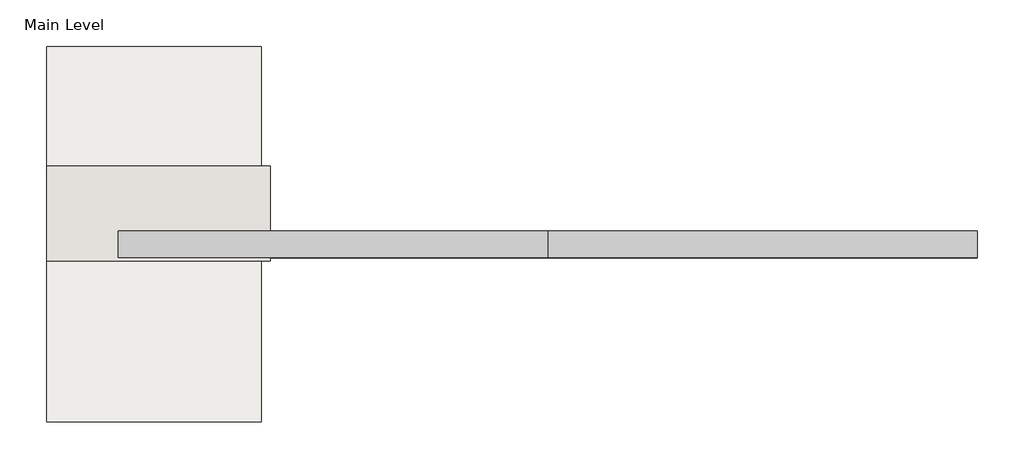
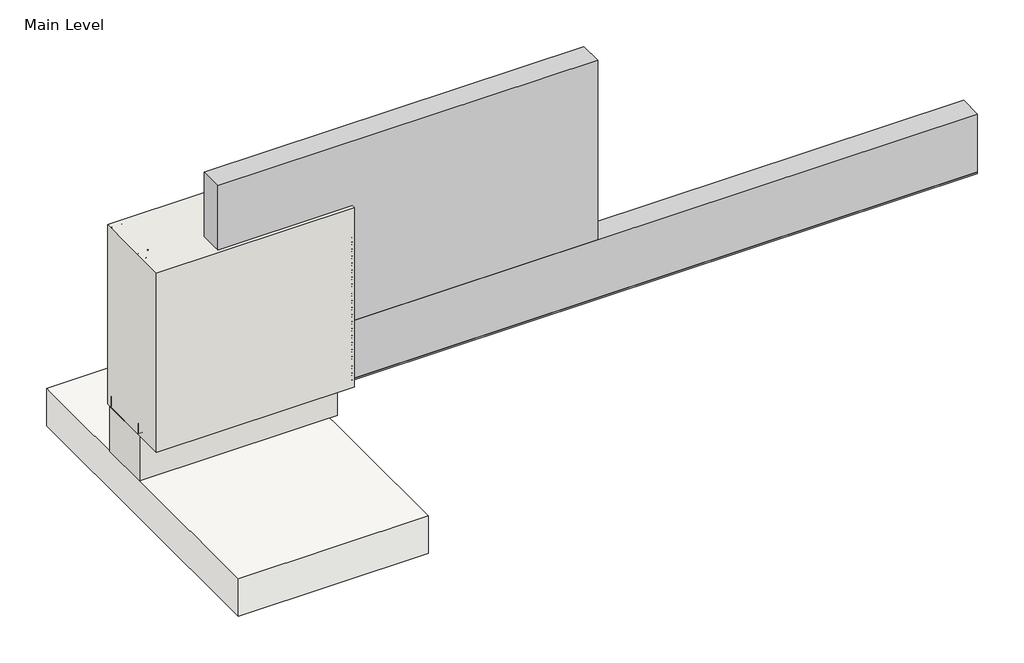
# One storey, incomplete: 14 proxies, 2 walls, 1 slab.
"""IFC4 building model written with IfcOpenShell, lengths in millimetres."""

from ifc_helpers import new_model, si_unit, frame, origin, origin_with_axes, place, context, project, spatial, polyline, outline, extrude, transform, mapped, element, save
from components import generic_models_31547c53, generic_models_0bbfdc8f, generic_models_1e1ad44f, generic_models_7dd17a53, generic_models_441de798, generic_models_9d0e7a2a, generic_models_03ec6e0e, proxy_81afb05a, proxy_e5e434bb, wood_blocking_45ac4bf3

model = new_model("IFC4")

# Units and contexts
model_context = context("Model", 3, world=origin())
ifc_project = project(units=[si_unit("LENGTHUNIT", "METRE", prefix="MILLI")], contexts=[model_context])

# Site, building, storey
site = spatial("IfcSite", under=ifc_project)
building = spatial("IfcBuilding", under=site)
storey = spatial("IfcBuildingStorey", under=building, Name="Main Level", Elevation=0.0)

# Proxies
placement = place(None, origin())
generic_models_shape = generic_models_31547c53(model_context)
element("IfcBuildingElementProxy", 1, Name="Durabond Generic Model Sealant Vent : Durabond Generic Model Sealant Vent", ObjectType="Durabond Generic Model Sealant Vent : Durabond Generic Model Sealant Vent", at=placement, inside=storey, context=model_context, shape_type="MappedRepresentation", body=[
    mapped(generic_models_shape, transform((26865.4101773, 546.8432813, 8.5594788), x_axis=(1.0, 0.0, 0.0), y_axis=(0.0, 0.08715574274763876, -0.9961946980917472), z_axis=(0.0, 0.9961946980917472, 0.08715574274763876))),
])
generic_models_2_shape = generic_models_0bbfdc8f(model_context)
generic_models_3_shape = generic_models_1e1ad44f(model_context)
generic_models_4_shape = generic_models_7dd17a53(model_context)
generic_models_5_shape = generic_models_441de798(model_context)
element("IfcBuildingElementProxy", 2, Name="CRAi Generic Model Mesh Piece Face Based : CRAi Generic Model Mesh Piece Face Based", ObjectType="CRAi Generic Model Mesh Piece Face Based : CRAi Generic Model Mesh Piece Face Based", at=placement, inside=storey, context=model_context, shape_type="MappedRepresentation", body=[
    mapped(generic_models_2_shape, transform((26933.6726773, 541.9066297, 261.6963215), x_axis=(-1.0, 0.0, 0.0), y_axis=(0.0, 0.0, -1.0), z_axis=(0.0, -1.0, 0.0))),
    mapped(generic_models_3_shape, transform((26933.6726773, 541.9066297, 261.6963215), x_axis=(-1.0, 0.0, 0.0), y_axis=(0.0, 0.0, -1.0), z_axis=(0.0, -1.0, 0.0))),
    mapped(generic_models_4_shape, transform((26933.6726773, 541.9066297, 261.6963215), x_axis=(-1.0, 0.0, 0.0), y_axis=(0.0, 0.0, -1.0), z_axis=(0.0, -1.0, 0.0))),
    mapped(generic_models_5_shape, transform((26933.6726773, 541.9066297, 261.6963215), x_axis=(-1.0, 0.0, 0.0), y_axis=(0.0, 0.0, -1.0), z_axis=(0.0, -1.0, 0.0))),
])
generic_models_6_shape = generic_models_9d0e7a2a(model_context)
element("IfcBuildingElementProxy", 3, Name="CRAi Generic Model Metal Stud Array : CRAi Generic Model Metal Stud Array", ObjectType="CRAi Generic Model Metal Stud Array : CRAi Generic Model Metal Stud Array", at=placement, inside=storey, context=model_context, shape_type="MappedRepresentation", body=[
    mapped(generic_models_6_shape, transform((26666.9726773, 719.7066297, 6.35), x_axis=(-1.0, 0.0, 0.0), y_axis=(0.0, -1.0, 0.0), z_axis=(0.0, 0.0, 1.0))),
])
generic_models_7_shape = generic_models_03ec6e0e(model_context)
element("IfcBuildingElementProxy", 4, Name="CRAi Generic Model Drywall Screw : CRAi Generic Model Drywall Screw", ObjectType="CRAi Generic Model Drywall Screw : CRAi Generic Model Drywall Screw", at=placement, inside=storey, context=model_context, shape_type="MappedRepresentation", body=[
    mapped(generic_models_7_shape, transform((26482.8226773, 627.6316297, 25.4), x_axis=(1.0, 0.0, 0.0), y_axis=(0.0, 0.0, 1.0), z_axis=(0.0, -1.0, 0.0))),
])
element("IfcBuildingElementProxy", 5, Name="CRAi Generic Model Drywall Screw : CRAi Generic Model Drywall Screw", ObjectType="CRAi Generic Model Drywall Screw : CRAi Generic Model Drywall Screw", at=placement, inside=storey, context=model_context, shape_type="MappedRepresentation", body=[
    mapped(generic_models_7_shape, transform((26482.8226773, 627.6316297, 215.9), x_axis=(1.0, 0.0, 0.0), y_axis=(0.0, 0.0, 1.0), z_axis=(0.0, -1.0, 0.0))),
])
element("IfcBuildingElementProxy", 6, Name="CRAi Generic Model Drywall Screw : CRAi Generic Model Drywall Screw", ObjectType="CRAi Generic Model Drywall Screw : CRAi Generic Model Drywall Screw", at=placement, inside=storey, context=model_context, shape_type="MappedRepresentation", body=[
    mapped(generic_models_7_shape, transform((26482.8226773, 627.6316297, 406.4), x_axis=(1.0, 0.0, 0.0), y_axis=(0.0, 0.0, 1.0), z_axis=(0.0, -1.0, 0.0))),
])
element("IfcBuildingElementProxy", 7, Name="CRAi Generic Model Drywall Screw : CRAi Generic Model Drywall Screw", ObjectType="CRAi Generic Model Drywall Screw : CRAi Generic Model Drywall Screw", at=placement, inside=storey, context=model_context, shape_type="MappedRepresentation", body=[
    mapped(generic_models_7_shape, transform((26482.8226773, 627.6316297, 596.9), x_axis=(1.0, 0.0, 0.0), y_axis=(0.0, 0.0, 1.0), z_axis=(0.0, -1.0, 0.0))),
])
element("IfcBuildingElementProxy", 8, Name="CRAi Generic Model Drywall Screw : CRAi Generic Model Drywall Screw", ObjectType="CRAi Generic Model Drywall Screw : CRAi Generic Model Drywall Screw", at=placement, inside=storey, context=model_context, shape_type="MappedRepresentation", body=[
    mapped(generic_models_7_shape, transform((26851.1226773, 627.6316297, 25.4), x_axis=(1.0, 0.0, 0.0), y_axis=(0.0, 0.0, 1.0), z_axis=(0.0, -1.0, 0.0))),
])
element("IfcBuildingElementProxy", 9, Name="CRAi Generic Model Drywall Screw : CRAi Generic Model Drywall Screw", ObjectType="CRAi Generic Model Drywall Screw : CRAi Generic Model Drywall Screw", at=placement, inside=storey, context=model_context, shape_type="MappedRepresentation", body=[
    mapped(generic_models_7_shape, transform((26851.1226773, 627.6316297, 215.9), x_axis=(1.0, 0.0, 0.0), y_axis=(0.0, 0.0, 1.0), z_axis=(0.0, -1.0, 0.0))),
])
element("IfcBuildingElementProxy", 10, Name="CRAi Generic Model Drywall Screw : CRAi Generic Model Drywall Screw", ObjectType="CRAi Generic Model Drywall Screw : CRAi Generic Model Drywall Screw", at=placement, inside=storey, context=model_context, shape_type="MappedRepresentation", body=[
    mapped(generic_models_7_shape, transform((26851.1226773, 627.6316297, 406.4), x_axis=(1.0, 0.0, 0.0), y_axis=(0.0, 0.0, 1.0), z_axis=(0.0, -1.0, 0.0))),
])
element("IfcBuildingElementProxy", 11, Name="CRAi Generic Model Drywall Screw : CRAi Generic Model Drywall Screw", ObjectType="CRAi Generic Model Drywall Screw : CRAi Generic Model Drywall Screw", at=placement, inside=storey, context=model_context, shape_type="MappedRepresentation", body=[
    mapped(generic_models_7_shape, transform((26851.1226773, 627.6316297, 596.9), x_axis=(1.0, 0.0, 0.0), y_axis=(0.0, 0.0, 1.0), z_axis=(0.0, -1.0, 0.0))),
])
proxy_shape = proxy_81afb05a(model_context)
element("IfcBuildingElementProxy", 12, Name="Durabond Generic Model Equalite Insulation Board : 3\"", ObjectType="Durabond Generic Model Equalite Insulation Board : 3\"", at=placement, inside=storey, context=model_context, shape_type="MappedRepresentation", body=[
    mapped(proxy_shape, transform((27276.5726773, 624.4566297, 523.392643), x_axis=(1.0, 0.0, 0.0), y_axis=(0.0, 0.0, 1.0), z_axis=(0.0, -1.0, 0.0))),
])
proxy_2_shape = proxy_e5e434bb(model_context)
element("IfcBuildingElementProxy", 13, Name="Durabond Generic Model Equalite Vent Board : 3\"", ObjectType="Durabond Generic Model Equalite Vent Board : 3\"", at=placement, inside=storey, context=model_context, shape_type="MappedRepresentation", body=[
    mapped(proxy_2_shape, transform((27886.1726773, 624.4566297, 116.992643), x_axis=(1.0, 0.0, 0.0), y_axis=(0.0, 0.0, 1.0), z_axis=(0.0, -1.0, 0.0))),
])
wood_blocking_shape = wood_blocking_45ac4bf3(model_context)
element("IfcBuildingElementProxy", 14, Name="CRAi Generic Model Line Based Metal Framing Track : Wood Blocking", ObjectType="CRAi Generic Model Line Based Metal Framing Track : Wood Blocking", at=placement, inside=storey, context=model_context, shape_type="MappedRepresentation", body=[
    mapped(wood_blocking_shape, transform((26463.7726773, 637.1566297, 0.0), x_axis=(1.0, 0.0, 0.0), y_axis=(0.0, 1.0, 0.0), z_axis=(0.0, 0.0, 1.0))),
])

# Slab
element("IfcSlab", 15, ObjectType="CRAi Concrete Floor - 5\"", at=placement, inside=storey, context=model_context, shape_type="SweptSolid", body=[
    extrude(outline(polyline([(27073.3726773, 81.5316297), (26463.7726773, 81.5316297), (26463.7726773, 1148.3316297), (27073.3726773, 1148.3316297), (27073.3726773, 81.5316297)])), frame((0.0, 0.0, -279.4), z_axis=(0.0, 0.0, 1.0), x_axis=(1.0, 0.0, 0.0)), (0.0, 0.0, 1.0), 127.0),
])

# Walls
element("IfcWall", 16, ObjectType="189mm (7.5”) EIFS Field Applied on Mtl. Stud Layer - 50mm Grooved Insulation Board Metal Stud Wall(AirStop) 2", at=placement, inside=storey, context=model_context, shape_type="SweptSolid", body=[
    extrude(outline(polyline([(27098.7726773, 538.7316297), (26463.7726773, 538.7316297), (26463.7726773, 808.6066297), (27098.7726773, 808.6066297), (27098.7726773, 538.7316297)])), origin_with_axes(), (0.0, 0.0, 1.0), 609.6),
])
element("IfcWall", 17, ObjectType="Durabond 6\" Concrete Wall", at=placement, inside=storey, context=model_context, shape_type="SweptSolid", body=[
    extrude(outline(polyline([(27098.7726773, 630.8066297), (26463.7726773, 630.8066297), (26463.7726773, 795.9066297), (27098.7726773, 795.9066297), (27098.7726773, 630.8066297)])), frame((0.0, 0.0, -152.4), z_axis=(0.0, 0.0, 1.0), x_axis=(1.0, 0.0, 0.0)), (0.0, 0.0, 1.0), 152.4),
])

save(model, "model.ifc")
